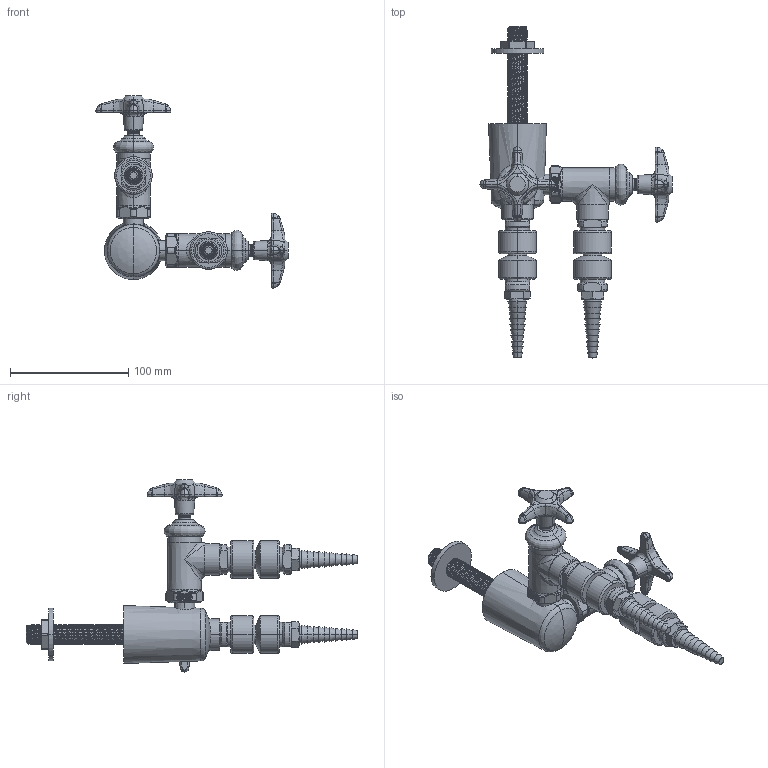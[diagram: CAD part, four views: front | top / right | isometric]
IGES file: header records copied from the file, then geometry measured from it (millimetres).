
Start section:  PTC IGES file: LWV2-C43-20.igs
Global section: file name: LWV2-C43-20.igs; native system: Creo Parametric by PTC Inc.; preprocessor: 2014500; author: usch_engrender; organization: Unknown; date: 20151113.124216; units: inch
Bounding box: 162.47 x 280.82 x 162.47 mm (x, y, z)
Volume: 377041.1 mm3; surface area: 71250.7 mm2
Topology: 1 solids, 4 shells, 1111 faces, 2614 edges, 1561 vertices
Faces by surface type: bspline 581, revolution 530
